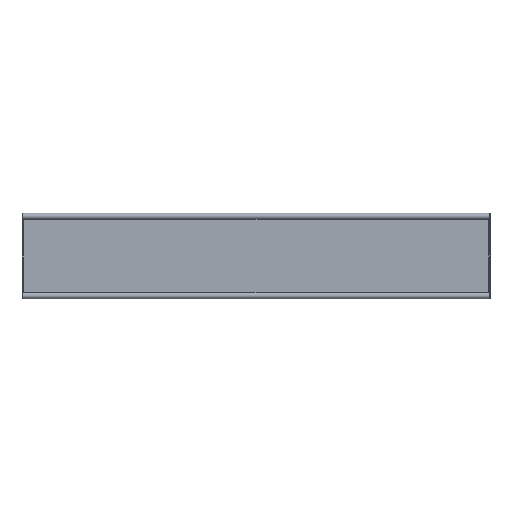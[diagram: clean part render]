
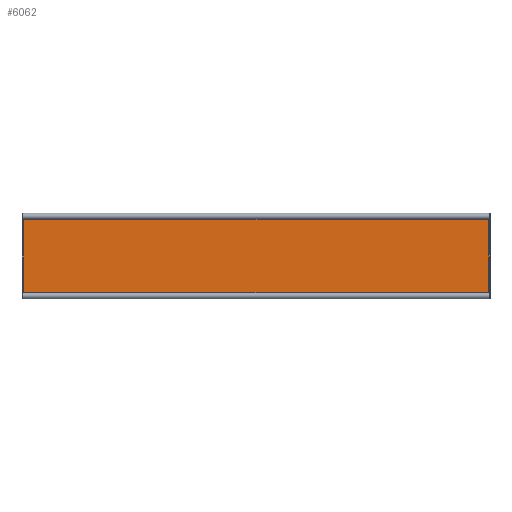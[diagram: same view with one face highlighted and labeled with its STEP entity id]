
A CAD part, front view. The second image highlights one B-rep face of the part: STEP entity #6062.
In plain terms, the highlighted planar face has unit normal (0, -1, 0).
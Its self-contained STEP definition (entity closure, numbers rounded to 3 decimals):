
#128 = CARTESIAN_POINT ( 'NONE',  ( -746., -2., 132.5 ) ) ;
#250 = CARTESIAN_POINT ( 'NONE',  ( 749., -2., 136.5 ) ) ;
#395 = VERTEX_POINT ( 'NONE', #5677 ) ;
#519 = LINE ( 'NONE', #2125, #2389 ) ;
#622 = CIRCLE ( 'NONE', #7737, 5. ) ;
#774 = AXIS2_PLACEMENT_3D ( 'NONE', #4305, #5847, #7524 ) ;
#926 = DIRECTION ( 'NONE',  ( 0., -1., 0. ) ) ;
#942 = EDGE_CURVE ( 'NONE', #5693, #5210, #622, .T. ) ;
#1021 = FACE_OUTER_BOUND ( 'NONE', #8755, .T. ) ;
#1317 = CARTESIAN_POINT ( 'NONE',  ( -746., -2., -136.5 ) ) ;
#1537 = VERTEX_POINT ( 'NONE', #3741 ) ;
#1579 = VECTOR ( 'NONE', #9855, 1000. ) ;
#1587 = AXIS2_PLACEMENT_3D ( 'NONE', #250, #4857, #9439 ) ;
#1686 = ORIENTED_EDGE ( 'NONE', *, *, #942, .F. ) ;
#1826 = CARTESIAN_POINT ( 'NONE',  ( 749., -2., -136.5 ) ) ;
#1889 = VERTEX_POINT ( 'NONE', #8691 ) ;
#2045 = ORIENTED_EDGE ( 'NONE', *, *, #6111, .F. ) ;
#2125 = CARTESIAN_POINT ( 'NONE',  ( -749., -2., -133.5 ) ) ;
#2389 = VECTOR ( 'NONE', #6636, 1000. ) ;
#2939 = EDGE_CURVE ( 'NONE', #5210, #5968, #8097, .T. ) ;
#3295 = EDGE_CURVE ( 'NONE', #395, #8555, #5083, .T. ) ;
#3315 = CIRCLE ( 'NONE', #8125, 5. ) ;
#3373 = CARTESIAN_POINT ( 'NONE',  ( -749., -2., -136.5 ) ) ;
#3598 = EDGE_CURVE ( 'NONE', #5968, #1537, #9775, .T. ) ;
#3741 = CARTESIAN_POINT ( 'NONE',  ( 746., -2., 132.5 ) ) ;
#3981 = DIRECTION ( 'NONE',  ( 0., 0., 1. ) ) ;
#4063 = CARTESIAN_POINT ( 'NONE',  ( -745., -2., 133.5 ) ) ;
#4076 = PLANE ( 'NONE',  #8778 ) ;
#4189 = CARTESIAN_POINT ( 'NONE',  ( -749., -2., 133.5 ) ) ;
#4220 = DIRECTION ( 'NONE',  ( 0., -1., 0. ) ) ;
#4282 = CARTESIAN_POINT ( 'NONE',  ( -746., -2., -132.5 ) ) ;
#4305 = CARTESIAN_POINT ( 'NONE',  ( -749., -2., -136.5 ) ) ;
#4465 = ORIENTED_EDGE ( 'NONE', *, *, #3295, .F. ) ;
#4721 = EDGE_CURVE ( 'NONE', #395, #1889, #519, .T. ) ;
#4724 = CARTESIAN_POINT ( 'NONE',  ( 745., -2., 133.5 ) ) ;
#4781 = EDGE_CURVE ( 'NONE', #8555, #5693, #8193, .T. ) ;
#4847 = ORIENTED_EDGE ( 'NONE', *, *, #3598, .F. ) ;
#4857 = DIRECTION ( 'NONE',  ( 0., -1., 0. ) ) ;
#5083 = CIRCLE ( 'NONE', #774, 5. ) ;
#5210 = VERTEX_POINT ( 'NONE', #4063 ) ;
#5227 = VERTEX_POINT ( 'NONE', #9446 ) ;
#5677 = CARTESIAN_POINT ( 'NONE',  ( -745., -2., -133.5 ) ) ;
#5693 = VERTEX_POINT ( 'NONE', #128 ) ;
#5763 = CARTESIAN_POINT ( 'NONE',  ( 746., -2., -136.5 ) ) ;
#5847 = DIRECTION ( 'NONE',  ( 0., -1., 0. ) ) ;
#5967 = DIRECTION ( 'NONE',  ( 0., 0., 1. ) ) ;
#5968 = VERTEX_POINT ( 'NONE', #4724 ) ;
#6041 = VECTOR ( 'NONE', #5967, 1000. ) ;
#6062 = ADVANCED_FACE ( 'NONE', ( #1021 ), #4076, .F. ) ;
#6111 = EDGE_CURVE ( 'NONE', #5227, #1889, #3315, .T. ) ;
#6442 = DIRECTION ( 'NONE',  ( 0., 0., 1. ) ) ;
#6636 = DIRECTION ( 'NONE',  ( 1., 0., 0. ) ) ;
#7524 = DIRECTION ( 'NONE',  ( 0., 0., 1. ) ) ;
#7737 = AXIS2_PLACEMENT_3D ( 'NONE', #7790, #926, #3981 ) ;
#7790 = CARTESIAN_POINT ( 'NONE',  ( -749., -2., 136.5 ) ) ;
#7905 = ORIENTED_EDGE ( 'NONE', *, *, #2939, .F. ) ;
#8097 = LINE ( 'NONE', #4189, #8950 ) ;
#8125 = AXIS2_PLACEMENT_3D ( 'NONE', #1826, #4220, #9650 ) ;
#8193 = LINE ( 'NONE', #1317, #1579 ) ;
#8548 = ORIENTED_EDGE ( 'NONE', *, *, #4721, .T. ) ;
#8555 = VERTEX_POINT ( 'NONE', #4282 ) ;
#8691 = CARTESIAN_POINT ( 'NONE',  ( 745., -2., -133.5 ) ) ;
#8755 = EDGE_LOOP ( 'NONE', ( #2045, #9531, #4847, #7905, #1686, #9744, #4465, #8548 ) ) ;
#8778 = AXIS2_PLACEMENT_3D ( 'NONE', #3373, #9411, #6442 ) ;
#8900 = DIRECTION ( 'NONE',  ( 1., 0., 0. ) ) ;
#8950 = VECTOR ( 'NONE', #8900, 1000. ) ;
#8985 = LINE ( 'NONE', #5763, #6041 ) ;
#9411 = DIRECTION ( 'NONE',  ( 0., 1., 0. ) ) ;
#9439 = DIRECTION ( 'NONE',  ( 0., 0., 1. ) ) ;
#9446 = CARTESIAN_POINT ( 'NONE',  ( 746., -2., -132.5 ) ) ;
#9531 = ORIENTED_EDGE ( 'NONE', *, *, #9750, .T. ) ;
#9650 = DIRECTION ( 'NONE',  ( 0., 0., 1. ) ) ;
#9744 = ORIENTED_EDGE ( 'NONE', *, *, #4781, .F. ) ;
#9750 = EDGE_CURVE ( 'NONE', #5227, #1537, #8985, .T. ) ;
#9775 = CIRCLE ( 'NONE', #1587, 5. ) ;
#9855 = DIRECTION ( 'NONE',  ( 0., 0., 1. ) ) ;
